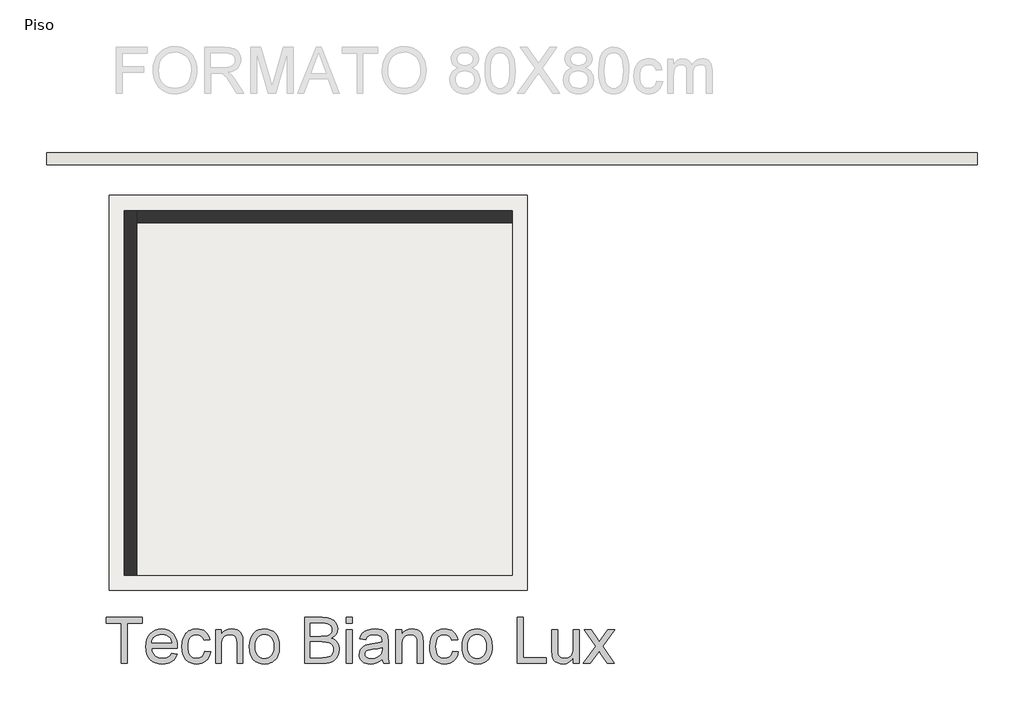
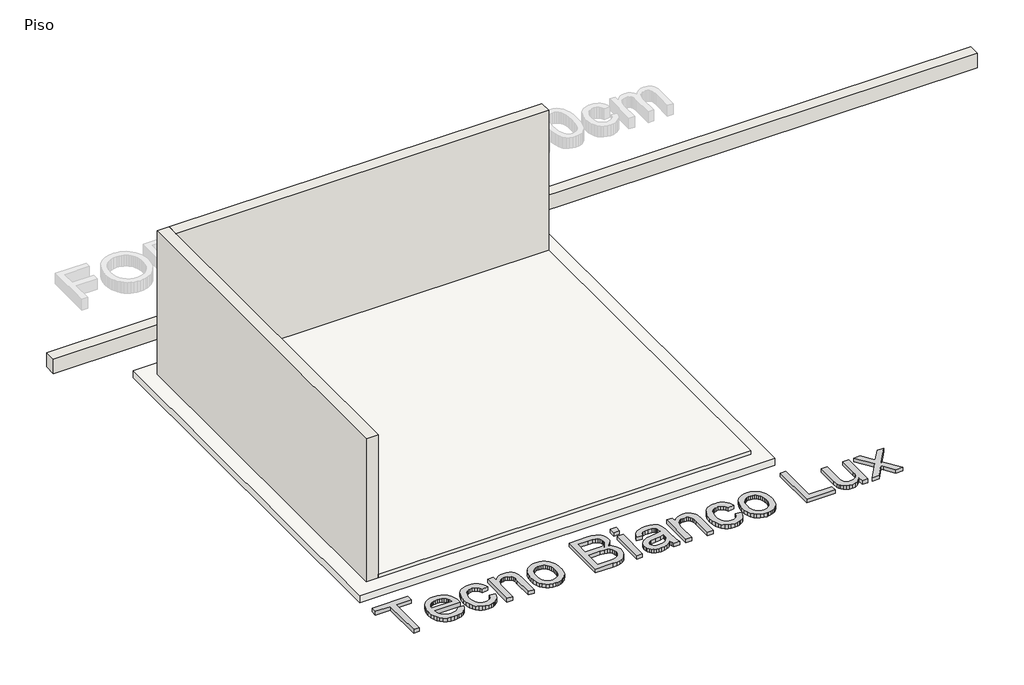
# One storey, part 1 of 2: 3 walls, 2 slabs, 1 proxy.
"""IFC4 building model written with IfcOpenShell, lengths in millimetres."""

import ifcopenshell
import ifcopenshell.guid

model = None  # the IFC model being written
_history = None  # IfcOwnerHistory: only IFC2X3 demands one
_inside = {}  # id of a spatial element -> (the spatial element, [elements in it])
_under = {}  # id of a project, library or spatial element -> (it, [spatial elements below it])
_declared = {}  # id of a project -> (the project, [libraries it declares])
_typed = {}  # id of a type object -> (the type object, [elements of that type])
_made_of = {}  # id of a material, layer set ... -> (it, [elements and type objects made of it])


def new_model(schema):
    """Start an empty IFC model of exactly this schema.

    Asked for "IFC4X3", IfcOpenShell would pick the latest addendum, in which some entities
    have other attributes; the version numbers below select the first issue.
    IFC2X3 requires an IfcOwnerHistory on every rooted entity: one is made here for all.
    """
    global model, _history
    if schema == "IFC4X3":
        model = ifcopenshell.file(schema_version=(4, 3, 0, 0))
    else:
        model = ifcopenshell.file(schema=schema)
    _inside.clear()
    _under.clear()
    _declared.clear()
    _typed.clear()
    _made_of.clear()
    _history = None
    if model.schema == "IFC2X3":
        org = make("IfcOrganization", Name="unknown")
        user = make(
            "IfcPersonAndOrganization",
            ThePerson=make("IfcPerson", FamilyName="unknown"),
            TheOrganization=org,
        )
        app = make(
            "IfcApplication",
            ApplicationDeveloper=org,
            Version="unknown",
            ApplicationFullName="unknown",
            ApplicationIdentifier="unknown",
        )
        _history = make(
            "IfcOwnerHistory",
            OwningUser=user,
            OwningApplication=app,
            ChangeAction="ADDED",
            CreationDate=0,
        )
    return model


def make(cls, **values):
    """One entity of the class cls with the attributes given. An attribute that is None is left unset."""
    return model.create_entity(
        cls, **{name: value for name, value in values.items() if value is not None}
    )


def rooted(cls, **values):
    """An entity with a GlobalId (a new one), such as an element, a storey or a relation."""
    return make(cls, GlobalId=ifcopenshell.guid.new(), OwnerHistory=_history, **values)


def si_unit(unit_type, name, prefix=None):
    """IfcSIUnit, for example si_unit("LENGTHUNIT", "METRE", prefix="MILLI")."""
    return make("IfcSIUnit", UnitType=unit_type, Prefix=prefix, Name=name)


def assignment(units):
    """IfcUnitAssignment: the units of a project."""
    return None if units is None else make("IfcUnitAssignment", Units=units)


def point(xyz):
    """IfcCartesianPoint."""
    return None if xyz is None else make("IfcCartesianPoint", Coordinates=xyz)


def direction(xyz):
    """IfcDirection."""
    return None if xyz is None else make("IfcDirection", DirectionRatios=xyz)


def frame(location, z_axis=None, x_axis=None):
    """IfcAxis2Placement3D, a coordinate frame: its origin and axes. An axis left out is left unset."""
    return make(
        "IfcAxis2Placement3D",
        Location=point(location),
        Axis=direction(z_axis),
        RefDirection=direction(x_axis),
    )


def origin():
    """The frame at (0, 0, 0) with its axes left unset."""
    return frame((0.0, 0.0, 0.0))


def origin_with_axes():
    """The frame at (0, 0, 0) with the z axis (0, 0, 1) and the x axis (1, 0, 0) written out."""
    return frame((0.0, 0.0, 0.0), z_axis=(0.0, 0.0, 1.0), x_axis=(1.0, 0.0, 0.0))


def place(relative_to, where):
    """IfcLocalPlacement: puts the frame where relative to a parent placement (None: the world)."""
    return make(
        "IfcLocalPlacement", PlacementRelTo=relative_to, RelativePlacement=where
    )


def context(
    kind, dimensions, precision=None, world=None, true_north=None, identifier=None
):
    """IfcGeometricRepresentationContext, for example the 3D "Model" context."""
    return make(
        "IfcGeometricRepresentationContext",
        ContextIdentifier=identifier,
        ContextType=kind,
        CoordinateSpaceDimension=dimensions,
        Precision=precision,
        WorldCoordinateSystem=world,
        TrueNorth=true_north,
    )


def project(units=None, contexts=None):
    """IfcProject with its units and contexts."""
    return rooted(
        "IfcProject",
        Name="project",
        RepresentationContexts=contexts,
        UnitsInContext=assignment(units),
    )


def spatial(cls, under=None, at=None, **own):
    """A site, building, storey or space (cls), placed at a placement, below another one or the project."""
    s = rooted(cls, ObjectPlacement=at, **own)
    if under is not None:
        _under.setdefault(under.id(), (under, []))[1].append(s)
    return s


def polyline(points):
    """IfcPolyline through the points."""
    return make("IfcPolyline", Points=[point(p) for p in points])


def outline(outer, holes=None, kind="AREA"):
    """IfcArbitraryClosedProfileDef: a profile drawn as a closed curve; with holes, ...WithVoids."""
    if holes is None:
        return make("IfcArbitraryClosedProfileDef", ProfileType=kind, OuterCurve=outer)
    return make(
        "IfcArbitraryProfileDefWithVoids",
        ProfileType=kind,
        OuterCurve=outer,
        InnerCurves=holes,
    )


def extrude(swept, where, along, depth):
    """IfcExtrudedAreaSolid: the profile swept, set in the frame where, extruded along a direction by depth."""
    return make(
        "IfcExtrudedAreaSolid",
        SweptArea=swept,
        Position=where,
        ExtrudedDirection=direction(along),
        Depth=depth,
    )


def faces_of(points, faces, orient=None, outer=None):
    """IfcFace entities. A face is a list of loops; a loop is a list of indices into points, from 0.

    orient and outer hold one flag for each loop. By default every Orientation is true, the
    first loop of a face is its IfcFaceOuterBound and the others are IfcFaceBound.
    """
    made = []
    for i, loops in enumerate(faces):
        bounds = []
        for j, loop in enumerate(loops):
            is_outer = j == 0 if outer is None else outer[i][j]
            bounds.append(
                make(
                    "IfcFaceOuterBound" if is_outer else "IfcFaceBound",
                    Bound=make("IfcPolyLoop", Polygon=[points[k] for k in loop]),
                    Orientation=True if orient is None else orient[i][j],
                )
            )
        made.append(make("IfcFace", Bounds=bounds))
    return made


def faceted_brep(points, faces, orient=None, outer=None, voids=None):
    """IfcFacetedBrep: a solid bounded by flat faces; with voids (closed shells), ...WithVoids."""
    shared = [point(p) for p in points]
    hull = make("IfcClosedShell", CfsFaces=faces_of(shared, faces, orient, outer))
    if voids is None:
        return make("IfcFacetedBrep", Outer=hull)
    return make(
        "IfcFacetedBrepWithVoids",
        Outer=hull,
        Voids=[
            make(cls, CfsFaces=faces_of(shared, fs, o, b)) for cls, fs, o, b in voids
        ],
    )


def shape(context_of_items, identifier, shape_type, items):
    """IfcShapeRepresentation: the items that make up one representation, for example the "Body"."""
    return make(
        "IfcShapeRepresentation",
        ContextOfItems=context_of_items,
        RepresentationIdentifier=identifier,
        RepresentationType=shape_type,
        Items=items,
    )


def made_of(thing, what):
    """Note that an element or type object is made of a material, layer set ...; save() writes the relation."""
    if what is not None:
        _made_of.setdefault(what.id(), (what, []))[1].append(thing)
    return thing


def element(
    cls,
    number,
    at=None,
    inside=None,
    cuts=None,
    type_object=None,
    material=None,
    context=None,
    identifier="Body",
    shape_type=None,
    held_by="IfcProductDefinitionShape",
    body=None,
    shapes=None,
    **own,
):
    """One element of the class cls, such as IfcWall. Its Tag is "e" and its number.

    at: its placement. inside: the storey or other place that contains it. cuts: it is an
    opening in that element (IfcRelVoidsElement). A single representation is given by context,
    identifier, shape_type and body (its items); several are given by shapes. held_by: the class
    of the entity that holds the representations. save() writes the other relations.
    """
    e = rooted(cls, Tag="e%d" % number, ObjectPlacement=at, **own)
    if body is not None:
        shapes = [shape(context, identifier, shape_type, body)]
    if shapes is not None:
        e.Representation = make(held_by, Representations=shapes)
    if inside is not None:
        _inside.setdefault(inside.id(), (inside, []))[1].append(e)
    if cuts is not None:
        rooted(
            "IfcRelVoidsElement", RelatingBuildingElement=cuts, RelatedOpeningElement=e
        )
    if type_object is not None:
        _typed.setdefault(type_object.id(), (type_object, []))[1].append(e)
    return made_of(e, material)


def aggregate(whole, parts):
    """IfcRelAggregates: a whole, such as a stair, and the parts it consists of."""
    return rooted("IfcRelAggregates", RelatingObject=whole, RelatedObjects=parts)


def save(model, path):
    """Write the relations noted so far, then the file.

    IfcRelAggregates (storeys below a building ...), IfcRelContainedInSpatialStructure (elements
    in a storey), IfcRelDefinesByType, IfcRelAssociatesMaterial and IfcRelDeclares: one each for
    every whole, place, type object, material and project.
    """
    for whole, parts in _under.values():
        aggregate(whole, parts)
    for where, things in _inside.values():
        rooted(
            "IfcRelContainedInSpatialStructure",
            RelatedElements=things,
            RelatingStructure=where,
        )
    for kind, things in _typed.values():
        rooted("IfcRelDefinesByType", RelatedObjects=things, RelatingType=kind)
    for what, things in _made_of.values():
        rooted("IfcRelAssociatesMaterial", RelatedObjects=things, RelatingMaterial=what)
    for by, libraries in _declared.values():
        rooted("IfcRelDeclares", RelatingContext=by, RelatedDefinitions=libraries)
    model.write(path)


model = new_model("IFC4")

# Units and contexts
model_context = context("Model", 3, world=origin())
ifc_project = project(units=[si_unit("LENGTHUNIT", "METRE", prefix="MILLI")], contexts=[model_context])

# Site, building, storey
site = spatial("IfcSite", under=ifc_project)
building = spatial("IfcBuilding", under=site)
storey = spatial("IfcBuildingStorey", under=building, Name="Piso", Elevation=0.0)

# Proxy
placement = place(None, origin())
element("IfcBuildingElementProxy", 1, Name="600mm Arial", ObjectType="600mm Arial", at=placement, inside=storey, context=model_context, shape_type="SweptSolid", body=[
    extrude(outline(polyline([(92667.6934033, -4769.1849345), (92667.6934033, -4241.7893062), (92469.9200427, -4241.7893062), (92469.9200427, -4166.4470736), (92940.8089965, -4166.4470736), (92940.8089965, -4241.7893062), (92743.0356359, -4241.7893062), (92743.0356359, -4769.1849345), (92667.6934033, -4769.1849345)])), origin_with_axes(), (0.0, 0.0, 1.0), 50.0),
    extrude(outline(polyline([(93326.0550219, -4637.3360274), (93399.9257265, -4646.7538065), (93388.5995596, -4676.3407159), (93373.3094642, -4702.4143523), (93354.0554402, -4724.9747157), (93330.8374878, -4744.021806), (93303.8947302, -4759.1509531), (93273.4662907, -4769.9574867), (93239.5521692, -4776.4414068), (93202.1523659, -4778.6027136), (93155.4037614, -4774.8733098), (93113.7503225, -4763.6850986), (93077.1920492, -4745.03808), (93045.7289416, -4718.9322539), (93020.4278573, -4686.0941873), (93002.3556543, -4647.2504472), (92991.5123325, -4602.4010334), (92987.8978919, -4551.5459461), (92991.5491207, -4498.966412), (93002.5028071, -4452.6224776), (93020.7589511, -4412.5141431), (93046.3175527, -4378.6414084), (93077.6978869, -4351.7308404), (93113.4192287, -4332.5090062), (93153.4815779, -4320.9759057), (93197.8849348, -4317.1315388), (93240.8581503, -4320.9667086), (93279.7202846, -4332.472218), (93314.4713376, -4351.648067), (93345.1113092, -4378.4942556), (93370.1226864, -4412.2934139), (93387.9879558, -4452.328172), (93398.7071174, -4498.59853), (93402.2801713, -4551.1044877), (93401.8387129, -4571.4115739), (93063.2401245, -4571.4115739), (93067.6041247, -4601.4767299), (93076.2815413, -4627.8078837), (93089.2723742, -4650.4050353), (93106.5766236, -4669.2681846), (93127.2377961, -4684.1398142), (93150.2993987, -4694.7624069), (93175.7614313, -4701.1359624), (93203.6238939, -4703.2604809), (93243.7230314, -4699.3241436), (93277.4945985, -4687.5151315), (93304.9385954, -4667.0976808), (93326.0550219, -4637.3360274)]), holes=[polyline([(93063.2401245, -4496.0693413), (93326.9379387, -4496.0693413), (93316.7476074, -4456.2645094), (93307.9828189, -4440.6111305), (93296.7716151, -4427.790443), (93276.2254056, -4412.3393992), (93252.8465048, -4401.3029393), (93226.6349127, -4394.6810634), (93197.5906292, -4392.4737714), (93171.098527, -4394.2350065), (93146.8045197, -4399.5187116), (93124.7086074, -4408.3248869), (93104.81079, -4420.6535322), (93088.1135459, -4435.9344306), (93075.6193537, -4453.5973649), (93067.3282132, -4473.6423351), (93063.2401245, -4496.0693413)])]), origin_with_axes(), (0.0, 0.0, 1.0), 50.0),
    extrude(outline(polyline([(93760.1557762, -4609.0826902), (93835.4980088, -4618.5004693), (93827.3034374, -4654.0516656), (93814.4919469, -4685.5101747), (93797.0635374, -4712.8759966), (93775.0182088, -4736.1491313), (93749.2848632, -4754.7225735), (93720.7924027, -4767.989318), (93689.5408272, -4775.9493647), (93655.5301368, -4778.6027136), (93613.2742911, -4774.900901), (93575.3870441, -4763.7954632), (93541.8683958, -4745.2864004), (93512.7183462, -4719.3737123), (93489.1233148, -4686.5448428), (93472.2697209, -4647.2872354), (93462.1575645, -4601.6008901), (93458.7868457, -4549.485807), (93464.544199, -4482.4393133), (93471.7408905, -4452.2683912), (93481.8162586, -4424.3323522), (93494.8392813, -4399.1922164), (93510.8789363, -4377.4090037), (93529.9352236, -4358.9827143), (93552.0081433, -4343.9133481), (93576.0998155, -4332.1963065), (93601.2123602, -4323.8269911), (93627.3457774, -4318.8054019), (93654.5000672, -4317.1315388), (93687.926745, -4319.4308013), (93718.1620464, -4326.3285887), (93745.2059716, -4337.824901), (93769.0585205, -4353.9197383), (93789.3150228, -4374.2452186), (93805.5708085, -4398.4334597), (93817.8258775, -4426.4844619), (93826.0802297, -4458.3982249), (93750.7379971, -4467.816004), (93737.071181, -4434.9457478), (93715.7892076, -4411.382906), (93688.0692992, -4397.2010551), (93655.0886784, -4392.4737714), (93629.48869, -4394.800625), (93606.3994963, -4401.7811859), (93585.8210972, -4413.415454), (93567.7534927, -4429.7034293), (93553.0428114, -4451.0221909), (93542.5351819, -4477.7488179), (93536.2306042, -4509.8833102), (93534.1290783, -4547.4256678), (93536.184619, -4585.533644), (93542.3512409, -4618.0406168), (93552.6289442, -4644.9465862), (93567.0177287, -4666.2515522), (93584.7266483, -4682.4429585), (93604.9647565, -4694.0082488), (93627.7320535, -4700.9474229), (93653.0285392, -4703.2604809), (93692.0424248, -4697.4847336), (93708.9144128, -4690.2650495), (93724.0297643, -4680.1574916), (93736.9654149, -4667.0516956), (93747.2983005, -4650.8372966), (93755.0284209, -4631.5142948), (93760.1557762, -4609.0826902)])), origin_with_axes(), (0.0, 0.0, 1.0), 50.0),
    extrude(outline(polyline([(93901.4224623, -4769.1849345), (93901.4224623, -4326.5493179), (93976.7646949, -4326.5493179), (93976.7646949, -4388.3534931), (94002.9394989, -4357.1938881), (94034.3750154, -4334.9370274), (94071.0712444, -4321.5829109), (94113.028186, -4317.1315388), (94150.1658734, -4320.7183883), (94184.1765638, -4331.4789366), (94212.5402657, -4348.0704146), (94232.7369872, -4369.1500529), (94246.4405915, -4394.6626693), (94255.3249417, -4424.5530814), (94259.2980672, -4497.3937164), (94259.2980672, -4769.1849345), (94183.9558346, -4769.1849345), (94183.9558346, -4507.5472595), (94181.7853309, -4468.5885562), (94175.2738195, -4440.887042), (94163.2624724, -4421.0398083), (94144.5924611, -4405.6439468), (94120.6617374, -4395.7663153), (94092.8682526, -4392.4737714), (94069.990591, -4394.3223784), (94048.7408073, -4399.8681995), (94029.1189014, -4409.1112346), (94011.1248733, -4422.0514838), (93996.0922953, -4440.160475), (93985.3547395, -4464.9097363), (93978.9122061, -4496.2992675), (93976.7646949, -4534.3290688), (93976.7646949, -4769.1849345), (93901.4224623, -4769.1849345)])), origin_with_axes(), (0.0, 0.0, 1.0), 50.0),
    extrude(outline(polyline([(94344.0580789, -4547.8671262), (94348.132372, -4490.5419143), (94360.3552513, -4441.1445594), (94380.7267168, -4399.6750615), (94409.2467685, -4366.1334206), (94437.9599582, -4344.6950973), (94469.6529921, -4329.3820092), (94504.3258701, -4320.1941564), (94541.9785923, -4317.1315388), (94583.5446593, -4320.8609425), (94621.1284036, -4332.0491537), (94654.7298253, -4350.6961723), (94684.3489245, -4376.8019984), (94708.5233701, -4409.4837152), (94725.7908312, -4447.8584058), (94736.1513079, -4491.9260703), (94739.6048001, -4541.6867087), (94738.0780899, -4582.0157724), (94733.497959, -4617.8014935), (94725.8644076, -4649.0438719), (94715.1774357, -4675.7429077), (94701.5704004, -4698.8045103), (94685.176659, -4719.134589), (94665.9962114, -4736.733144), (94644.0290578, -4751.6001751), (94620.1305237, -4763.4137857), (94595.1559347, -4771.8520789), (94569.105291, -4776.9150549), (94541.9785923, -4778.6027136), (94499.8055201, -4774.8871054), (94461.8722879, -4763.7402809), (94428.1788957, -4745.1622402), (94398.7253434, -4719.1529831), (94374.8084152, -4686.1539682), (94357.724895, -4646.6066537), (94347.474783, -4600.5110397), (94344.0580789, -4547.8671262)]), holes=[polyline([(94419.4003115, -4547.7199734), (94421.5800124, -4584.2644511), (94428.1191148, -4615.9069012), (94439.0176189, -4642.6473237), (94454.2755247, -4664.4857186), (94472.8351713, -4681.4496771), (94493.6388982, -4693.5667904), (94516.6867052, -4700.8370583), (94541.9785923, -4703.2604809), (94567.1417208, -4700.8232627), (94590.0975573, -4693.5116081), (94610.8461018, -4681.325517), (94629.3873544, -4664.2649895), (94644.6452601, -4642.2104638), (94655.5437642, -4615.0423785), (94662.0828667, -4582.7607334), (94664.2625675, -4545.3655286), (94662.0690711, -4509.9798792), (94655.4885819, -4479.1651636), (94644.5211, -4452.9213817), (94629.1666252, -4431.2485337), (94610.5563948, -4414.2845752), (94589.8216458, -4402.167462), (94566.9623783, -4394.8971941), (94541.9785923, -4392.4737714), (94516.6867052, -4394.887997), (94493.6388982, -4402.1306738), (94472.8351713, -4414.2018018), (94454.2755247, -4431.1013809), (94439.0176189, -4452.8753965), (94428.1191148, -4479.5698338), (94421.5800124, -4511.1846927), (94419.4003115, -4547.7199734)])]), origin_with_axes(), (0.0, 0.0, 1.0), 50.0),
    extrude(outline(polyline([(95069.2270678, -4769.1849345), (95069.2270678, -4166.4470736), (95299.2268912, -4166.4470736), (95362.4842003, -4170.8800516), (95411.8723581, -4184.1789857), (95431.949518, -4194.2359598), (95449.7274154, -4206.6749697), (95465.2060504, -4221.4960156), (95478.3854229, -4238.6990974), (95496.4300347, -4276.3702137), (95502.4449053, -4315.8071636), (95497.3865279, -4352.0987224), (95482.2113956, -4386.2197775), (95456.8091438, -4416.0734014), (95421.069408, -4439.5626668), (95443.8091138, -4449.2563574), (95463.7621135, -4461.8563157), (95480.9284071, -4477.3625418), (95495.3079946, -4495.7750357), (95506.6709498, -4516.5327772), (95514.7873463, -4539.0747465), (95519.6571842, -4563.4009434), (95521.2804635, -4589.511368), (95516.8474855, -4631.541886), (95503.5485513, -4670.5189834), (95483.7013177, -4703.6651511), (95459.6234411, -4728.2028802), (95430.1376992, -4745.9715806), (95394.0668696, -4758.8106622), (95350.2337298, -4766.5913664), (95297.4610576, -4769.1849345), (95069.2270678, -4769.1849345)]), holes=[polyline([(95144.5693004, -4693.8427019), (95299.0797384, -4693.8427019), (95354.9978017, -4690.8996459), (95380.9518764, -4684.3697405), (95402.3074263, -4674.4921089), (95419.6714564, -4660.3470462), (95433.6509722, -4641.0148474), (95442.8664162, -4617.3600351), (95445.9382309, -4590.247132), (95442.3329873, -4558.7564332), (95431.5172567, -4531.6803184), (95412.6265162, -4510.5087096), (95384.7962433, -4496.7315288), (95345.3776875, -4489.1715538), (95291.7220985, -4486.6515622), (95144.5693004, -4486.6515622), (95144.5693004, -4693.8427019)]), polyline([(95144.5693004, -4411.3093296), (95282.1571666, -4411.3093296), (95330.2761316, -4409.6906488), (95362.5025944, -4404.8346065), (95390.6271729, -4393.6693879), (95410.8422885, -4376.9491512), (95423.0375767, -4354.9314138), (95427.1026727, -4327.8736931), (95423.3134882, -4301.6069186), (95411.9459345, -4278.7246585), (95393.5150466, -4260.8639876), (95368.5358591, -4249.6619809), (95330.2025552, -4243.7574749), (95271.709318, -4241.7893062), (95144.5693004, -4241.7893062), (95144.5693004, -4411.3093296)])]), origin_with_axes(), (0.0, 0.0, 1.0), 50.0),
    extrude(outline(polyline([(95615.4582543, -4241.7893062), (95615.4582543, -4166.4470736), (95690.8004869, -4166.4470736), (95690.8004869, -4241.7893062), (95615.4582543, -4241.7893062)])), origin_with_axes(), (0.0, 0.0, 1.0), 50.0),
    extrude(outline(polyline([(95615.4582543, -4769.1849345), (95615.4582543, -4326.5493179), (95690.8004869, -4326.5493179), (95690.8004869, -4769.1849345), (95615.4582543, -4769.1849345)])), origin_with_axes(), (0.0, 0.0, 1.0), 50.0),
    extrude(outline(polyline([(96086.3472081, -4712.67826), (96050.3499549, -4743.5435594), (96013.2858438, -4763.7402809), (95974.3087465, -4774.8871054), (95932.5725341, -4778.6027136), (95899.0262947, -4776.3678304), (95869.6095306, -4769.6631811), (95844.322242, -4758.4887655), (95823.1644287, -4742.8445836), (95806.4579876, -4723.7239169), (95794.5248154, -4702.1200468), (95787.3649121, -4678.0329731), (95784.9782776, -4651.462696), (95788.5835212, -4620.2295146), (95799.3992518, -4591.8658128), (95816.0827003, -4567.5856011), (95837.2910974, -4548.6028902), (95862.2151025, -4534.2554924), (95890.0453755, -4523.8812201), (95955.234065, -4512.5504546), (96032.2685548, -4500.631078), (96085.9057497, -4486.6515622), (96086.3472081, -4469.8761432), (96081.160072, -4436.2517288), (96074.6761518, -4423.7989233), (96065.5986636, -4414.2523855), (96049.9084965, -4404.7242419), (96030.7970268, -4397.9184249), (95982.3101798, -4392.4737714), (95937.4285764, -4396.0974091), (95906.0850304, -4406.968322), (95884.7110865, -4427.0730731), (95869.7382893, -4458.3982249), (95794.3960567, -4448.9804459), (95807.4742616, -4407.7776624), (95826.9904015, -4375.4040468), (95854.7654921, -4350.6455886), (95892.6205494, -4332.288277), (95938.9184985, -4320.9207234), (95992.0222645, -4317.1315388), (96042.9555268, -4320.479265), (96083.3305757, -4330.5224434), (96113.7728108, -4345.6239993), (96134.9076314, -4364.1468578), (96148.9239355, -4387.047512), (96158.0106207, -4415.2824551), (96161.6894407, -4481.2069087), (96161.6894407, -4574.943241), (96165.5154134, -4705.8356549), (96171.1807962, -4738.1908764), (96180.5249989, -4769.1849345), (96105.1827662, -4769.1849345), (96093.1162368, -4742.9917364), (96086.3472081, -4712.67826)]), holes=[polyline([(96086.3472081, -4561.9937948), (96035.7266455, -4574.5385708), (95964.7989969, -4585.0967841), (95899.9781893, -4597.3104663), (95883.1107999, -4605.6613876), (95870.6212061, -4617.1760941), (95862.8956842, -4630.9716689), (95860.3205102, -4646.1651953), (95865.9307107, -4668.5692088), (95882.761312, -4686.9265204), (95910.4444321, -4699.1769908), (95948.6121891, -4703.2604809), (95989.0792086, -4698.7539265), (96024.8373385, -4685.2342632), (96053.8264397, -4665.3134531), (96073.986373, -4641.6034585), (96082.9259055, -4617.1760941), (96085.9057497, -4583.3309505), (96086.3472081, -4561.9937948)])]), origin_with_axes(), (0.0, 0.0, 1.0), 50.0),
    extrude(outline(polyline([(96265.2850105, -4769.1849345), (96265.2850105, -4326.5493179), (96340.6272432, -4326.5493179), (96340.6272432, -4388.3534931), (96366.8020471, -4357.1938881), (96398.2375636, -4334.9370274), (96434.9337926, -4321.5829109), (96476.8907342, -4317.1315388), (96514.0284216, -4320.7183883), (96548.039112, -4331.4789366), (96576.4028139, -4348.0704146), (96596.5995354, -4369.1500529), (96610.3031397, -4394.6626693), (96619.1874899, -4424.5530814), (96623.1606154, -4497.3937164), (96623.1606154, -4769.1849345), (96547.8183828, -4769.1849345), (96547.8183828, -4507.5472595), (96545.6478791, -4468.5885562), (96539.1363677, -4440.887042), (96527.1250206, -4421.0398083), (96508.4550094, -4405.6439468), (96484.5242856, -4395.7663153), (96456.7308008, -4392.4737714), (96433.8531393, -4394.3223784), (96412.6033555, -4399.8681995), (96392.9814496, -4409.1112346), (96374.9874215, -4422.0514838), (96359.9548435, -4440.160475), (96349.2172877, -4464.9097363), (96342.7747543, -4496.2992675), (96340.6272432, -4534.3290688), (96340.6272432, -4769.1849345), (96265.2850105, -4769.1849345)])), origin_with_axes(), (0.0, 0.0, 1.0), 50.0),
    extrude(outline(polyline([(97009.2895576, -4609.0826902), (97084.6317902, -4618.5004693), (97076.4372188, -4654.0516656), (97063.6257283, -4685.5101747), (97046.1973188, -4712.8759966), (97024.1519902, -4736.1491313), (96998.4186446, -4754.7225735), (96969.9261841, -4767.989318), (96938.6746086, -4775.9493647), (96904.6639182, -4778.6027136), (96862.4080725, -4774.900901), (96824.5208255, -4763.7954632), (96791.0021772, -4745.2864004), (96761.8521276, -4719.3737123), (96738.2570962, -4686.5448428), (96721.4035023, -4647.2872354), (96711.2913459, -4601.6008901), (96707.9206271, -4549.485807), (96713.6779804, -4482.4393133), (96720.8746719, -4452.2683912), (96730.95004, -4424.3323522), (96743.9730627, -4399.1922164), (96760.0127177, -4377.4090037), (96779.069005, -4358.9827143), (96801.1419247, -4343.9133481), (96825.2335969, -4332.1963065), (96850.3461416, -4323.8269911), (96876.4795588, -4318.8054019), (96903.6338486, -4317.1315388), (96937.0605264, -4319.4308013), (96967.2958278, -4326.3285887), (96994.339753, -4337.824901), (97018.1923019, -4353.9197383), (97038.4488042, -4374.2452186), (97054.7045899, -4398.4334597), (97066.9596589, -4426.4844619), (97075.2140111, -4458.3982249), (96999.8717785, -4467.816004), (96986.2049624, -4434.9457478), (96964.922989, -4411.382906), (96937.2030806, -4397.2010551), (96904.2224598, -4392.4737714), (96878.6224714, -4394.800625), (96855.5332777, -4401.7811859), (96834.9548786, -4413.415454), (96816.8872741, -4429.7034293), (96802.1765928, -4451.0221909), (96791.6689633, -4477.7488179), (96785.3643856, -4509.8833102), (96783.2628597, -4547.4256678), (96785.3184004, -4585.533644), (96791.4850223, -4618.0406168), (96801.7627256, -4644.9465862), (96816.1515101, -4666.2515522), (96833.8604297, -4682.4429585), (96854.0985379, -4694.0082488), (96876.8658349, -4700.9474229), (96902.1623206, -4703.2604809), (96941.1762062, -4697.4847336), (96958.0481942, -4690.2650495), (96973.1635457, -4680.1574916), (96986.0991963, -4667.0516956), (96996.4320819, -4650.8372966), (97004.1622023, -4631.5142948), (97009.2895576, -4609.0826902)])), origin_with_axes(), (0.0, 0.0, 1.0), 50.0),
    extrude(outline(polyline([(97131.7206856, -4547.8671262), (97135.7949787, -4490.5419143), (97148.017858, -4441.1445594), (97168.3893234, -4399.6750615), (97196.9093751, -4366.1334206), (97225.6225648, -4344.6950973), (97257.3155987, -4329.3820092), (97291.9884768, -4320.1941564), (97329.641199, -4317.1315388), (97371.2072659, -4320.8609425), (97408.7910102, -4332.0491537), (97442.392432, -4350.6961723), (97472.0115311, -4376.8019984), (97496.1859767, -4409.4837152), (97513.4534379, -4447.8584058), (97523.8139146, -4491.9260703), (97527.2674068, -4541.6867087), (97525.7406965, -4582.0157724), (97521.1605657, -4617.8014935), (97513.5270143, -4649.0438719), (97502.8400423, -4675.7429077), (97489.233007, -4698.8045103), (97472.8392656, -4719.134589), (97453.6588181, -4736.733144), (97431.6916644, -4751.6001751), (97407.7931303, -4763.4137857), (97382.8185414, -4771.8520789), (97356.7678976, -4776.9150549), (97329.641199, -4778.6027136), (97287.4681268, -4774.8871054), (97249.5348945, -4763.7402809), (97215.8415023, -4745.1622402), (97186.3879501, -4719.1529831), (97162.4710219, -4686.1539682), (97145.3875017, -4646.6066537), (97135.1373896, -4600.5110397), (97131.7206856, -4547.8671262)]), holes=[polyline([(97207.0629182, -4547.7199734), (97209.242619, -4584.2644511), (97215.7817215, -4615.9069012), (97226.6802256, -4642.6473237), (97241.9381313, -4664.4857186), (97260.497778, -4681.4496771), (97281.3015048, -4693.5667904), (97304.3493118, -4700.8370583), (97329.641199, -4703.2604809), (97354.8043275, -4700.8232627), (97377.760164, -4693.5116081), (97398.5087085, -4681.325517), (97417.049961, -4664.2649895), (97432.3078668, -4642.2104638), (97443.2063709, -4615.0423785), (97449.7454734, -4582.7607334), (97451.9251742, -4545.3655286), (97449.7316778, -4509.9798792), (97443.1511886, -4479.1651636), (97432.1837066, -4452.9213817), (97416.8292318, -4431.2485337), (97398.2190014, -4414.2845752), (97377.4842525, -4402.167462), (97354.624985, -4394.8971941), (97329.641199, -4392.4737714), (97304.3493118, -4394.887997), (97281.3015048, -4402.1306738), (97260.497778, -4414.2018018), (97241.9381313, -4431.1013809), (97226.6802256, -4452.8753965), (97215.7817215, -4479.5698338), (97209.242619, -4511.1846927), (97207.0629182, -4547.7199734)])]), origin_with_axes(), (0.0, 0.0, 1.0), 50.0),
    extrude(outline(polyline([(97856.8896745, -4769.1849345), (97856.8896745, -4166.4470736), (97932.2319071, -4166.4470736), (97932.2319071, -4693.8427019), (98233.6008375, -4693.8427019), (98233.6008375, -4769.1849345), (97856.8896745, -4769.1849345)])), origin_with_axes(), (0.0, 0.0, 1.0), 50.0),
    extrude(outline(polyline([(98591.4764424, -4769.1849345), (98591.4764424, -4693.1069379), (98564.2163866, -4730.5113397), (98532.4681704, -4757.2287696), (98496.2317939, -4773.2592276), (98455.507257, -4778.6027136), (98418.811028, -4774.8503172), (98384.6531848, -4763.5931281), (98355.9951773, -4746.6705564), (98335.7984558, -4725.9220118), (98322.2052161, -4700.7220952), (98313.3576541, -4670.445407), (98308.9430701, -4600.4006751), (98308.9430701, -4326.5493179), (98384.2853028, -4326.5493179), (98384.2853028, -4564.9368508), (98385.4257369, -4612.6143573), (98388.8470395, -4641.7506113), (98399.8283171, -4667.3735923), (98418.6454811, -4686.852944), (98444.0477329, -4699.1585967), (98474.7842736, -4703.2604809), (98507.2866478, -4699.0666262), (98537.6920947, -4686.485062), (98562.7632527, -4666.6746165), (98579.2627602, -4640.7941182), (98588.4230219, -4605.3486879), (98591.4764424, -4556.8434469), (98591.4764424, -4326.5493179), (98666.8186751, -4326.5493179), (98666.8186751, -4769.1849345), (98591.4764424, -4769.1849345)])), origin_with_axes(), (0.0, 0.0, 1.0), 50.0),
    extrude(outline(polyline([(98723.3253495, -4769.1849345), (98884.3105106, -4546.6899038), (98732.7431286, -4326.5493179), (98823.3892522, -4326.5493179), (98896.5241928, -4432.4993325), (98930.663642, -4482.5312838), (98960.2413544, -4441.622806), (99043.5298381, -4326.5493179), (99134.1759617, -4326.5493179), (98974.9566342, -4546.6899038), (99128.2898498, -4769.1849345), (99037.6437262, -4769.1849345), (98945.3789218, -4635.423041), (98928.45635, -4610.9956765), (98813.9714731, -4769.1849345), (98723.3253495, -4769.1849345)])), origin_with_axes(), (0.0, 0.0, 1.0), 50.0),
])

# Slabs
element("IfcSlab", 2, ObjectType="5cm - Porcelanato Tecno Bianco Lux  - Polido 80x80", at=placement, inside=storey, context=model_context, shape_type="SweptSolid", body=[
    extrude(outline(polyline([(97786.699165, 1006.9486968), (97786.699165, -3613.6513032), (92866.099165, -3613.6513032), (92866.099165, 1006.9486968), (97786.699165, 1006.9486968)])), origin_with_axes(), (0.0, 0.0, 1.0), 50.0),
])
element("IfcSlab", 3, ObjectType="CO02 - Concreto Estrutural Simples", at=placement, inside=storey, context=model_context, shape_type="SweptSolid", body=[
    extrude(outline(polyline([(97986.699165, 1365.7486968), (97986.699165, -3813.6513032), (92507.299165, -3813.6513032), (92507.299165, 1365.7486968), (97986.699165, 1365.7486968)])), frame((0.0, 0.0, -100.0), z_axis=(0.0, 0.0, 1.0), x_axis=(1.0, 0.0, 0.0)), (0.0, 0.0, 1.0), 100.0),
])

# Walls
element("IfcWall", 4, ObjectType="CO01 - Bloco de Concreto 14cm / Pintura Branca Simples", at=placement, inside=storey, context=model_context, shape_type="SweptSolid", body=[
    extrude(outline(polyline([(103886.699165, 1765.7486968), (91686.699165, 1765.7486968), (91686.699165, 1924.5486968), (103886.699165, 1924.5486968), (103886.699165, 1765.7486968)])), origin_with_axes(), (0.0, 0.0, 1.0), 200.0),
])
element("IfcWall", 5, ObjectType="CO01 - Bloco de Concreto 14cm / Pintura Branca Simples", at=placement, inside=storey, context=model_context, shape_type="Brep", body=[
    faceted_brep([(92866.099165, -3613.6513032, 0.0), (92866.099165, 1006.9486968, 0.0), (92866.099165, 1165.7486968, 0.0), (92866.099165, 1165.7486968, 2000.0), (92866.099165, 1006.9486968, 2000.0), (92866.099165, -3613.6513032, 2000.0), (92707.299165, -3613.6513032, 0.0), (92707.299165, -3613.6513032, 2000.0), (92707.299165, 1165.7486968, 2000.0), (92707.299165, 1165.7486968, 0.0)], [[[0, 1, 2, 3, 4, 5]], [[6, 7, 8, 9]], [[2, 1, 0, 6, 9]], [[5, 4, 3, 8, 7]], [[0, 5, 7, 6]], [[3, 2, 9, 8]]]),
])
element("IfcWall", 6, ObjectType="CO01 - Bloco de Concreto 14cm / Pintura Branca Simples", at=placement, inside=storey, context=model_context, shape_type="SweptSolid", body=[
    extrude(outline(polyline([(97786.699165, 1006.9486968), (92866.099165, 1006.9486968), (92866.099165, 1165.7486968), (97786.699165, 1165.7486968), (97786.699165, 1006.9486968)])), origin_with_axes(), (0.0, 0.0, 1.0), 2000.0),
])

save(model, "model.ifc")
